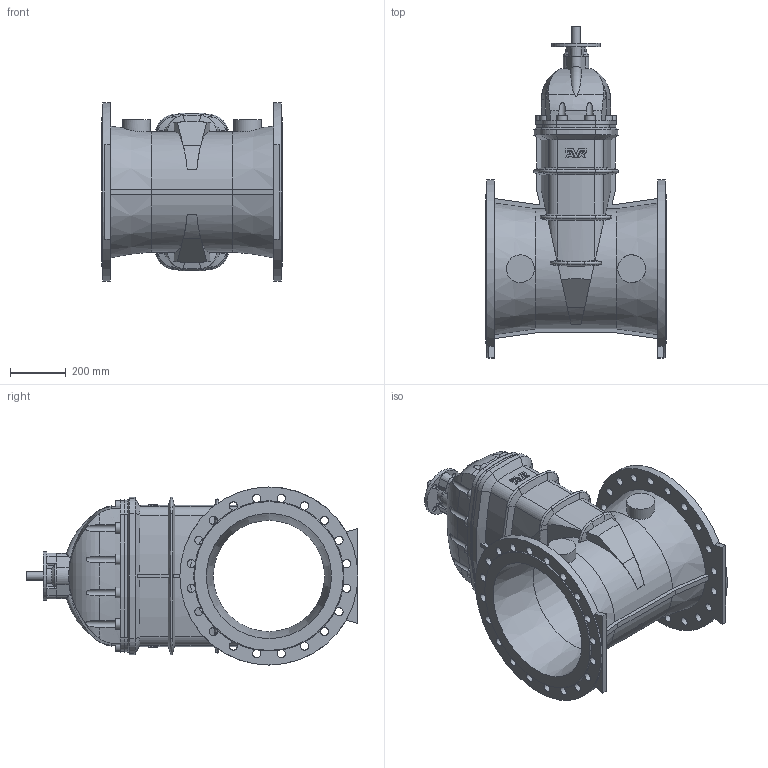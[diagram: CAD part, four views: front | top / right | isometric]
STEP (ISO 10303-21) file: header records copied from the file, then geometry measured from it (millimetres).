
FILE_DESCRIPTION (( 'STEP AP203' ), '1' );
FILE_NAME ('O_15_72_DN450_00_step.STEP', '2015-06-08T08:26:57', ( '' ), ( '' ), 'SwSTEP 2.0', 'SolidWorks 2012', '' );
FILE_SCHEMA (( 'CONFIG_CONTROL_DESIGN' ));
Length unit declared in the file: millimetre
Products named in the file (1): O_15_72_DN450_00_step
Bounding box: 650 x 1193 x 640 mm (x, y, z)
Volume: 86118825.7 mm3; surface area: 3558597.8 mm2
Topology: 1 solids, 1 shells, 463 faces, 1343 edges, 857 vertices
Faces by surface type: cylinder 173, plane 171, cone 73, torus 30, bspline 16
Full cylindrical faces by diameter (mm): 12 x4, 18 x4, 29.5 x40, 30 x1, 100 x2, 175 x1, 400 x1, 640 x2
Entity records: 17982 total; most frequent: CARTESIAN_POINT 6415, ORIENTED_EDGE 2458, DIRECTION 2334, EDGE_CURVE 1229, AXIS2_PLACEMENT_3D 939, VERTEX_POINT 803, EDGE_LOOP 596, FACE_OUTER_BOUND 518
